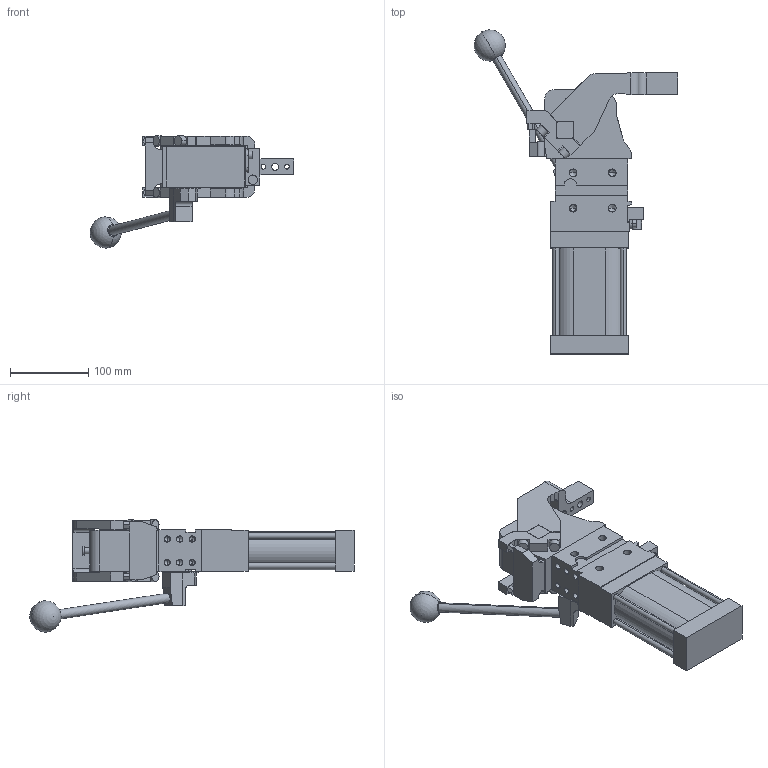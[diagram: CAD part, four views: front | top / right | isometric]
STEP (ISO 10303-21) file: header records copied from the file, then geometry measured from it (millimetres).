
FILE_DESCRIPTION (( 'STEP AP214' ), '1' );
FILE_NAME ('cplm63lbtv3csi1g_26.STEP', '2023-01-26T15:06:20', ( '' ), ( '' ), 'SwSTEP 2.0', 'SolidWorks 2022', '' );
FILE_SCHEMA (( 'AUTOMOTIVE_DESIGN' ));
Length unit declared in the file: millimetre
Products named in the file (5): comando_manuale_cplm_63; cplm63lbtv3csi1g_26; leva_v3cs_cpl63t; blocchetto_VEP_0; meccanica_cplm_63_tassello_esterno
Assembly tree (4 placements, depth 2):
  cplm63lbtv3csi1g_26
    meccanica_cplm_63_tassello_esterno
    blocchetto_VEP_0
    leva_v3cs_cpl63t
    comando_manuale_cplm_63
Bounding box: 260.54 x 414.46 x 143.5 mm (x, y, z)
Volume: 1922080.6 mm3; surface area: 219996.7 mm2
Topology: 4 solids, 4 shells, 469 faces, 1239 edges, 773 vertices
Faces by surface type: plane 250, cylinder 167, cone 50, sphere 2
Entity records: 15766 total; most frequent: CARTESIAN_POINT 2510, DIRECTION 2506, ORIENTED_EDGE 2376, EDGE_CURVE 1188, AXIS2_PLACEMENT_3D 848, LINE 810, VECTOR 810, VERTEX_POINT 770
